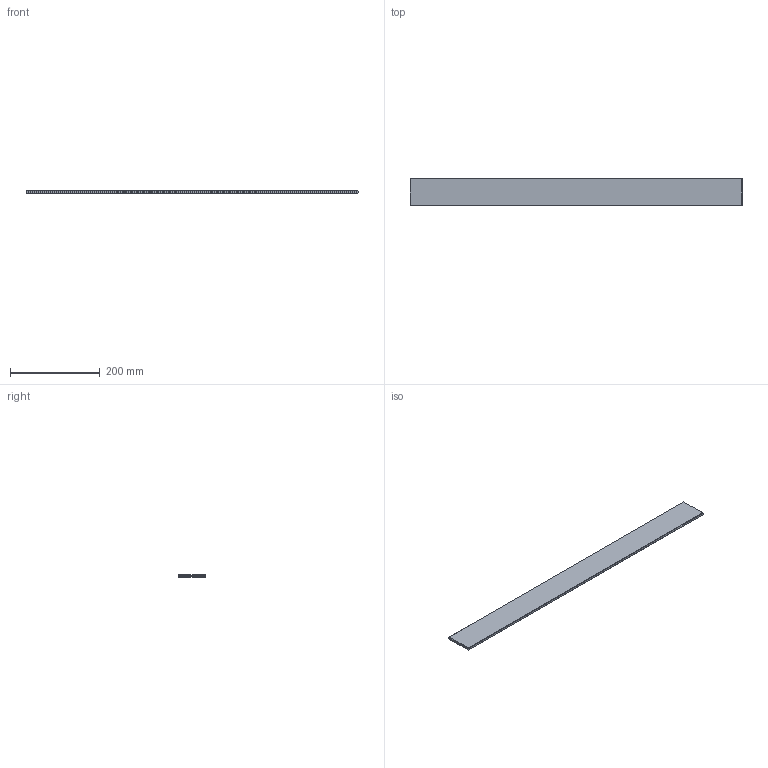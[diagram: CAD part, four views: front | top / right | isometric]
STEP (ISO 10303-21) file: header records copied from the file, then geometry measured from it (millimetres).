
FILE_DESCRIPTION((''),'2;1');
FILE_NAME('238472-HI','2023-01-30T08:33:33',('1ke04'),('Kesseboehmer'),'CREO PARAMETRIC BY PTC INC, 2020414','CREO PARAMETRIC BY PTC INC, 2020414','');
FILE_SCHEMA(('AUTOMOTIVE_DESIGN { 1 0 10303 214 1 1 1 1 }'));
Length unit declared in the file: millimetre
Products named in the file (1): 238472-HI
Bounding box: 739 x 61 x 6 mm (x, y, z)
Volume: 268876.7 mm3; surface area: 97880.2 mm2
Topology: 1 solids, 1 shells, 14 faces, 28 edges, 16 vertices
Faces by surface type: plane 14
Entity records: 966 total; most frequent: COLOUR_RGB 194, DIRECTION 81, CARTESIAN_POINT 76, ORIENTED_EDGE 56, PROPERTY_DEFINITION 39, REPRESENTATION 38, PROPERTY_DEFINITION_REPRESENTATION 38, PRESENTATION_STYLE_ASSIGNMENT 32
